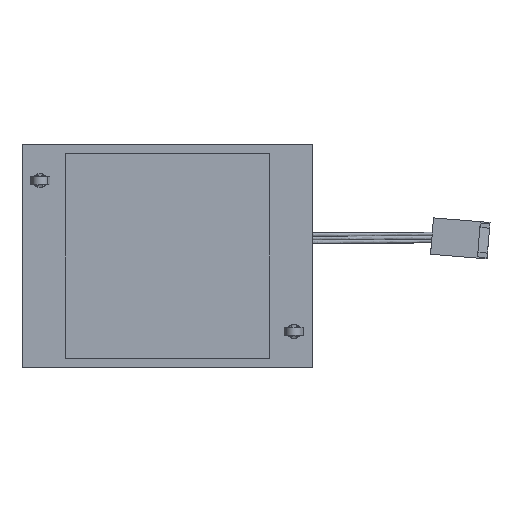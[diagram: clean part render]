
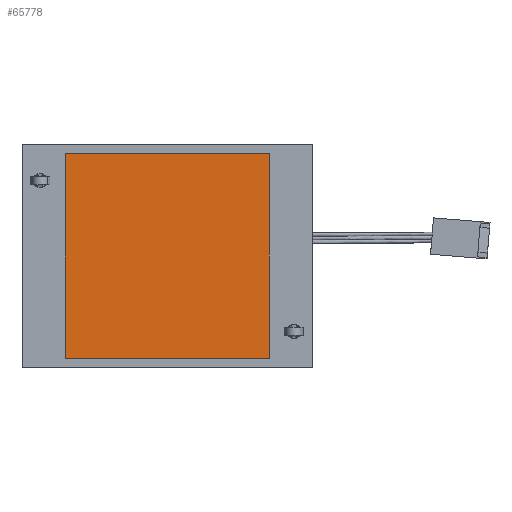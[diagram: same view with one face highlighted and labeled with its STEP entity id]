
A CAD part, front view. The second image highlights one B-rep face of the part: STEP entity #65778.
In plain terms, the highlighted planar face has unit normal (0, -1, 0).
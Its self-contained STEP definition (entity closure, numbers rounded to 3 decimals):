
#1676 = VECTOR ( 'NONE', #15091, 1000. ) ;
#2330 = FACE_OUTER_BOUND ( 'NONE', #3138, .T. ) ;
#3138 = EDGE_LOOP ( 'NONE', ( #33850, #36794, #12049, #11273 ) ) ;
#8022 = AXIS2_PLACEMENT_3D ( 'NONE', #37714, #54550, #71269 ) ;
#8590 = CARTESIAN_POINT ( 'NONE',  ( 22.86, 0., -22.86 ) ) ;
#11273 = ORIENTED_EDGE ( 'NONE', *, *, #50444, .F. ) ;
#12049 = ORIENTED_EDGE ( 'NONE', *, *, #31092, .F. ) ;
#12433 = LINE ( 'NONE', #24618, #36346 ) ;
#14897 = CARTESIAN_POINT ( 'NONE',  ( 22.86, 0., 22.86 ) ) ;
#15091 = DIRECTION ( 'NONE',  ( -1., 0., 0. ) ) ;
#19575 = VECTOR ( 'NONE', #24000, 1000. ) ;
#22144 = EDGE_CURVE ( 'NONE', #57528, #45362, #46169, .T. ) ;
#24000 = DIRECTION ( 'NONE',  ( 0., 0., 1. ) ) ;
#24618 = CARTESIAN_POINT ( 'NONE',  ( 22.86, 0., 22.86 ) ) ;
#24786 = CARTESIAN_POINT ( 'NONE',  ( 22.86, 0., 22.86 ) ) ;
#25784 = LINE ( 'NONE', #8590, #1676 ) ;
#28108 = DIRECTION ( 'NONE',  ( 0., 0., -1. ) ) ;
#31092 = EDGE_CURVE ( 'NONE', #57440, #47767, #56695, .T. ) ;
#33850 = ORIENTED_EDGE ( 'NONE', *, *, #22144, .F. ) ;
#36346 = VECTOR ( 'NONE', #54711, 1000. ) ;
#36794 = ORIENTED_EDGE ( 'NONE', *, *, #58041, .F. ) ;
#37714 = CARTESIAN_POINT ( 'NONE',  ( 0., 0., 0. ) ) ;
#43956 = CARTESIAN_POINT ( 'NONE',  ( -22.86, 0., -22.86 ) ) ;
#45362 = VERTEX_POINT ( 'NONE', #67506 ) ;
#46169 = LINE ( 'NONE', #69343, #19575 ) ;
#47767 = VERTEX_POINT ( 'NONE', #63609 ) ;
#48476 = PLANE ( 'NONE',  #8022 ) ;
#50444 = EDGE_CURVE ( 'NONE', #45362, #57440, #12433, .T. ) ;
#54550 = DIRECTION ( 'NONE',  ( 0., 1., 0. ) ) ;
#54711 = DIRECTION ( 'NONE',  ( 1., 0., 0. ) ) ;
#56695 = LINE ( 'NONE', #14897, #57390 ) ;
#57390 = VECTOR ( 'NONE', #28108, 1000. ) ;
#57440 = VERTEX_POINT ( 'NONE', #24786 ) ;
#57528 = VERTEX_POINT ( 'NONE', #43956 ) ;
#58041 = EDGE_CURVE ( 'NONE', #47767, #57528, #25784, .T. ) ;
#63609 = CARTESIAN_POINT ( 'NONE',  ( 22.86, 0., -22.86 ) ) ;
#65778 = ADVANCED_FACE ( 'NONE', ( #2330 ), #48476, .F. ) ;
#67506 = CARTESIAN_POINT ( 'NONE',  ( -22.86, 0., 22.86 ) ) ;
#69343 = CARTESIAN_POINT ( 'NONE',  ( -22.86, 0., 22.86 ) ) ;
#71269 = DIRECTION ( 'NONE',  ( 0., 0., 1. ) ) ;
